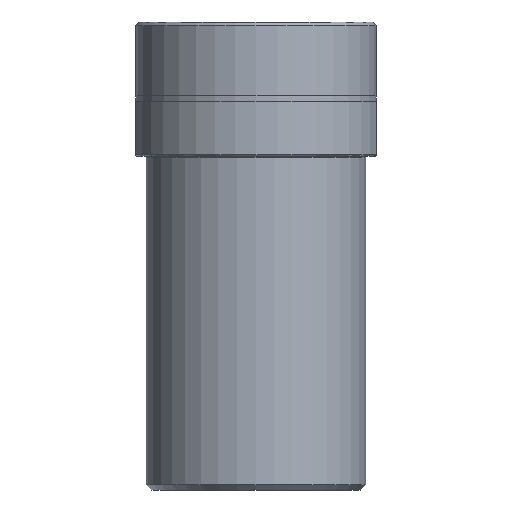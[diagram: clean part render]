
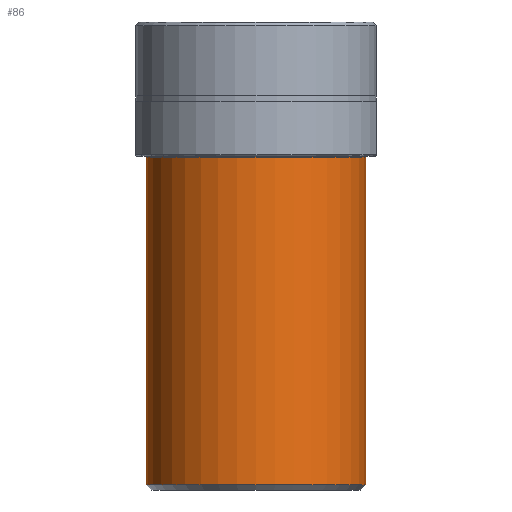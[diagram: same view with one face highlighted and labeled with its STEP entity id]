
A CAD part, front view. The second image highlights one B-rep face of the part: STEP entity #86.
In plain terms, the highlighted cylindrical face has radius 40.15 mm (diameter 80.3 mm), a full revolution.
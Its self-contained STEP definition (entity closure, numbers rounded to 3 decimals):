
#86 = ADVANCED_FACE( '', ( #178, #179 ), #180, .T. );
#178 = FACE_OUTER_BOUND( '', #263, .T. );
#179 = FACE_OUTER_BOUND( '', #264, .T. );
#180 = CYLINDRICAL_SURFACE( '', #265, 40.15 );
#263 = EDGE_LOOP( '', ( #414 ) );
#264 = EDGE_LOOP( '', ( #415 ) );
#265 = AXIS2_PLACEMENT_3D( '', #416, #417, #418 );
#414 = ORIENTED_EDGE( '', *, *, #450, .T. );
#415 = ORIENTED_EDGE( '', *, *, #439, .T. );
#416 = CARTESIAN_POINT( '', ( -215.392, -83.068, 0. ) );
#417 = DIRECTION( '', ( 0., 0., -1. ) );
#418 = DIRECTION( '', ( 0.906, 0.423, 0. ) );
#439 = EDGE_CURVE( '', #504, #504, #505, .F. );
#450 = EDGE_CURVE( '', #522, #522, #523, .T. );
#504 = VERTEX_POINT( '', #598 );
#505 = CIRCLE( '', #599, 40.15 );
#522 = VERTEX_POINT( '', #623 );
#523 = CIRCLE( '', #624, 40.15 );
#598 = CARTESIAN_POINT( '', ( -255.542, -83.068, 2. ) );
#599 = AXIS2_PLACEMENT_3D( '', #695, #696, #697 );
#623 = CARTESIAN_POINT( '', ( -255.542, -83.068, 121.5 ) );
#624 = AXIS2_PLACEMENT_3D( '', #712, #713, #714 );
#695 = CARTESIAN_POINT( '', ( -215.392, -83.068, 2. ) );
#696 = DIRECTION( '', ( 0., 0., -1. ) );
#697 = DIRECTION( '', ( -1., 0., 0. ) );
#712 = CARTESIAN_POINT( '', ( -215.392, -83.068, 121.5 ) );
#713 = DIRECTION( '', ( 0., 0., -1. ) );
#714 = DIRECTION( '', ( -1., 0., 0. ) );
